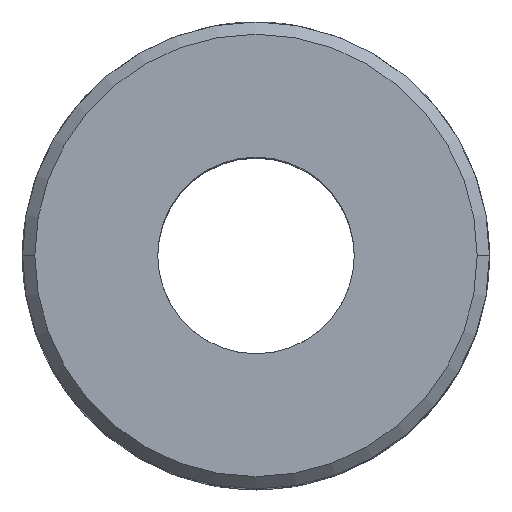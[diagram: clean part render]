
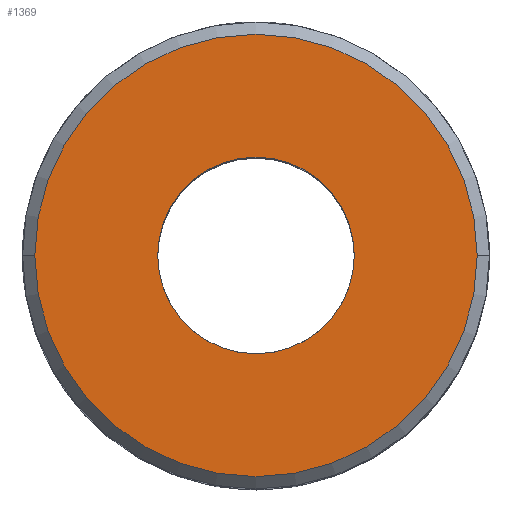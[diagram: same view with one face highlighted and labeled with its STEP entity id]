
A CAD part, top view. The second image highlights one B-rep face of the part: STEP entity #1369.
In plain terms, the highlighted planar face has unit normal (0, 0, 1).
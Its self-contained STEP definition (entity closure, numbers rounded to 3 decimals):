
#128 = DIRECTION ( 'NONE',  ( 1., 0., 0. ) ) ;
#353 = CIRCLE ( 'NONE', #3085, 9. ) ;
#1157 = CARTESIAN_POINT ( 'NONE',  ( 0., 0., 12.5 ) ) ;
#1198 = DIRECTION ( 'NONE',  ( 1., 0., 0. ) ) ;
#1221 = DIRECTION ( 'NONE',  ( 0., 0., 1. ) ) ;
#1241 = CIRCLE ( 'NONE', #3079, 4. ) ;
#1369 = ADVANCED_FACE ( 'NONE', ( #6050, #1771 ), #4439, .T. ) ;
#1407 = EDGE_CURVE ( 'NONE', #2858, #4824, #4335, .T. ) ;
#1488 = AXIS2_PLACEMENT_3D ( 'NONE', #5508, #1736, #3904 ) ;
#1736 = DIRECTION ( 'NONE',  ( 0., 0., 1. ) ) ;
#1771 = FACE_BOUND ( 'NONE', #3863, .T. ) ;
#2117 = ORIENTED_EDGE ( 'NONE', *, *, #1407, .F. ) ;
#2164 = EDGE_CURVE ( 'NONE', #6107, #5235, #353, .T. ) ;
#2411 = ORIENTED_EDGE ( 'NONE', *, *, #5382, .F. ) ;
#2424 = CARTESIAN_POINT ( 'NONE',  ( -9., 0., 12.5 ) ) ;
#2550 = CIRCLE ( 'NONE', #3792, 9. ) ;
#2613 = ORIENTED_EDGE ( 'NONE', *, *, #2164, .T. ) ;
#2858 = VERTEX_POINT ( 'NONE', #5761 ) ;
#2901 = DIRECTION ( 'NONE',  ( 0., 0., 1. ) ) ;
#2999 = EDGE_CURVE ( 'NONE', #5235, #6107, #2550, .T. ) ;
#3079 = AXIS2_PLACEMENT_3D ( 'NONE', #6078, #2901, #128 ) ;
#3085 = AXIS2_PLACEMENT_3D ( 'NONE', #4977, #3378, #1198 ) ;
#3378 = DIRECTION ( 'NONE',  ( 0., 0., 1. ) ) ;
#3792 = AXIS2_PLACEMENT_3D ( 'NONE', #4293, #6914, #4753 ) ;
#3863 = EDGE_LOOP ( 'NONE', ( #2411, #2117 ) ) ;
#3904 = DIRECTION ( 'NONE',  ( 1., 0., 0. ) ) ;
#4293 = CARTESIAN_POINT ( 'NONE',  ( 0., 0., 12.5 ) ) ;
#4335 = CIRCLE ( 'NONE', #1488, 4. ) ;
#4439 = PLANE ( 'NONE',  #4562 ) ;
#4562 = AXIS2_PLACEMENT_3D ( 'NONE', #1157, #1221, #5576 ) ;
#4753 = DIRECTION ( 'NONE',  ( 1., 0., 0. ) ) ;
#4756 = ORIENTED_EDGE ( 'NONE', *, *, #2999, .T. ) ;
#4824 = VERTEX_POINT ( 'NONE', #5503 ) ;
#4977 = CARTESIAN_POINT ( 'NONE',  ( 0., 0., 12.5 ) ) ;
#5199 = EDGE_LOOP ( 'NONE', ( #4756, #2613 ) ) ;
#5235 = VERTEX_POINT ( 'NONE', #2424 ) ;
#5382 = EDGE_CURVE ( 'NONE', #4824, #2858, #1241, .T. ) ;
#5503 = CARTESIAN_POINT ( 'NONE',  ( 4., 0., 12.5 ) ) ;
#5508 = CARTESIAN_POINT ( 'NONE',  ( 0., 0., 12.5 ) ) ;
#5576 = DIRECTION ( 'NONE',  ( 1., 0., 0. ) ) ;
#5761 = CARTESIAN_POINT ( 'NONE',  ( -4., 0., 12.5 ) ) ;
#6050 = FACE_OUTER_BOUND ( 'NONE', #5199, .T. ) ;
#6078 = CARTESIAN_POINT ( 'NONE',  ( 0., 0., 12.5 ) ) ;
#6107 = VERTEX_POINT ( 'NONE', #6526 ) ;
#6526 = CARTESIAN_POINT ( 'NONE',  ( 9., 0., 12.5 ) ) ;
#6914 = DIRECTION ( 'NONE',  ( 0., 0., 1. ) ) ;
